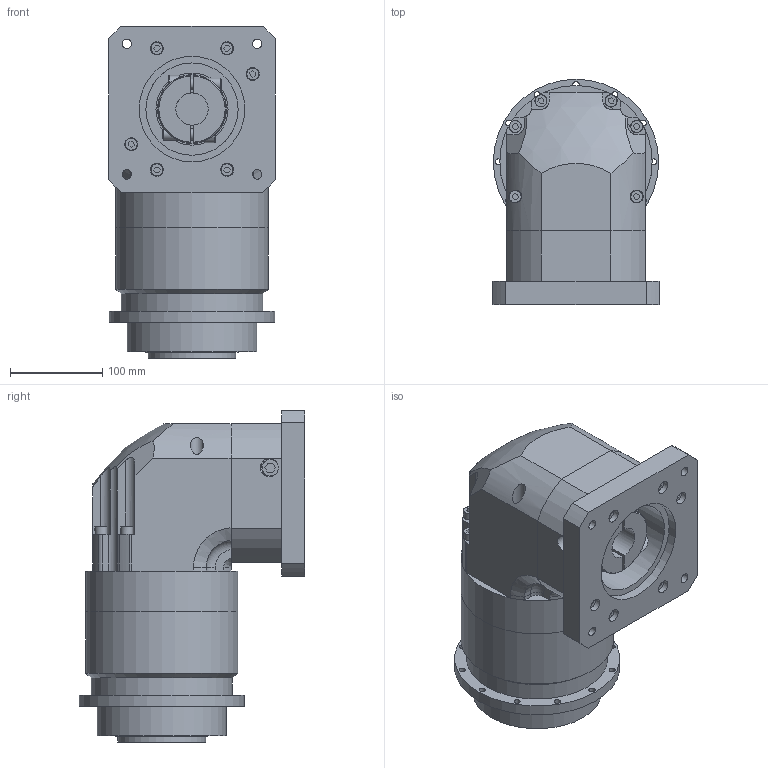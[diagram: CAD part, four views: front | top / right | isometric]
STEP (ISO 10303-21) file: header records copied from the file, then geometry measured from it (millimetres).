
FILE_DESCRIPTION(/* description */ (''),/* implementation_level */ '2;1');
FILE_NAME(/* name */ 'ZPLH160-L3 35-114.3-200-M12.stp',/* time_stamp */ '2022-01-24T12:11:34+08:00',/* author */ (''),/* organization */ (''),/* preprocessor_version */ 'ST-DEVELOPER v16.7',/* originating_system */ 'SIEMENS PLM Software NX 12.0',/* authorisation */ '');
FILE_SCHEMA (('AP203_CONFIGURATION_CONTROLLED_3D_DESIGN_OF_MECHANICAL_PARTS_AND_ASSEMBLIES_MIM_LF { 1 0 10303 403 2 1 2}'));
Length unit declared in the file: millimetre
Products named in the file (1): ZPLH160-L3 35-114.3-200-M12
Bounding box: 180 x 244.5 x 359.6 mm (x, y, z)
Volume: 5688952 mm3; surface area: 600031.2 mm2
Topology: 6 solids, 6 shells, 483 faces, 1151 edges, 761 vertices
Faces by surface type: plane 227, cylinder 168, cone 53, torus 30, bspline 4, sphere 1
Full cylindrical faces by diameter (mm): 6.6 x12, 6.8 x29, 8 x13, 9 x12, 10.2 x6, 12 x2, 12.5 x2, 13 x12, 14 x8, 16 x3, 18 x2, 20 x2, 35 x1, 37 x1, 50 x1, 60 x1, 74.7 x1, 78 x1, 85 x1, 95 x1, 100 x2, 110 x2, 114.3 x1, 120 x1, 134 x1, 140 x4, 153 x1, 165 x2, 179 x1
Entity records: 15492 total; most frequent: CARTESIAN_POINT 2358, DIRECTION 2197, ORIENTED_EDGE 1706, AXIS2_PLACEMENT_3D 892, EDGE_CURVE 853, EDGE_LOOP 827, VERTEX_POINT 689, FACE_BOUND 642
